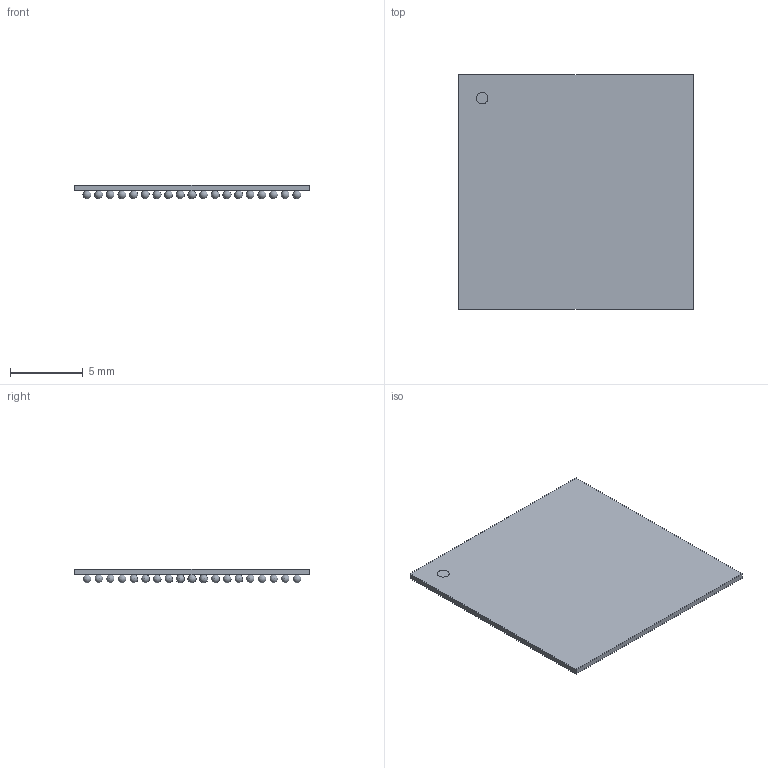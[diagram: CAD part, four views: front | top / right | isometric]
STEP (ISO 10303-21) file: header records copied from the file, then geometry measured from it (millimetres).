
FILE_DESCRIPTION(('STEP AP214'),'1');
FILE_NAME('BGA_GWTEP_TEX','2025-07-21T06:06:23',(''),(''),'','','');
FILE_SCHEMA(('AUTOMOTIVE_DESIGN'));
Length unit declared in the file: millimetre
Products named in the file (1): product
Bounding box: 16.1 x 16.1 x 0.94 mm (x, y, z)
Volume: 129.9 mm3; surface area: 874.9 mm2
Topology: 339 solids, 339 shells, 346 faces, 1026 edges, 684 vertices
Faces by surface type: sphere 337, plane 8, cylinder 1
Full cylindrical faces by diameter (mm): 0.805 x1
Entity records: 3406 total; most frequent: DIRECTION 712, CARTESIAN_POINT 360, AXIS2_PLACEMENT_3D 350, STYLED_ITEM 346, ADVANCED_FACE 346, MANIFOLD_SOLID_BREP 339, CLOSED_SHELL 339, SPHERICAL_SURFACE 337
